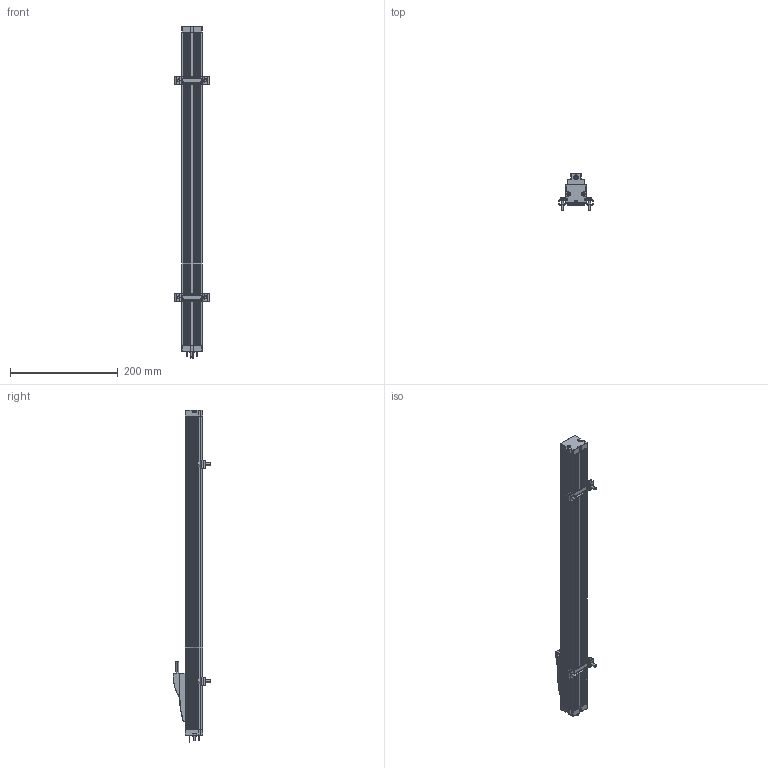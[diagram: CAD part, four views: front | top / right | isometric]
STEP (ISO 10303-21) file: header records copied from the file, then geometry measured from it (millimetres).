
FILE_DESCRIPTION (( 'STEP AP214' ), '1' );
FILE_NAME ('0450.STEP', '2008-11-27T14:39:39', ( 'novotechnik' ), ( 'novotechnik' ), 'SwSTEP 2.0', 'SolidWorks 2008', '' );
FILE_SCHEMA (( 'AUTOMOTIVE_DESIGN' ));
Length unit declared in the file: millimetre
Products named in the file (5): Gleitschlitten_Standard; Klammer_Anschlusseite_0450_Standard; Klammer_Endseite_0450_Standard; Housing_0450_Standard; 0450
Assembly tree (4 placements, depth 2):
  0450
    Gleitschlitten_Standard
    Klammer_Anschlusseite_0450_Standard
    Housing_0450_Standard
    Klammer_Endseite_0450_Standard
Bounding box: 65 x 70.2 x 617 mm (x, y, z)
Volume: 707394.8 mm3; surface area: 171142.9 mm2
Topology: 23 solids, 23 shells, 1179 faces, 3152 edges, 2027 vertices
Faces by surface type: plane 572, cylinder 421, bspline 94, cone 56, torus 22, sphere 14
Entity records: 54437 total; most frequent: CARTESIAN_POINT 12049, ORIENTED_EDGE 6256, DIRECTION 5810, EDGE_CURVE 3128, VERTEX_POINT 2027, AXIS2_PLACEMENT_3D 1953, VECTOR 1904, LINE 1904
